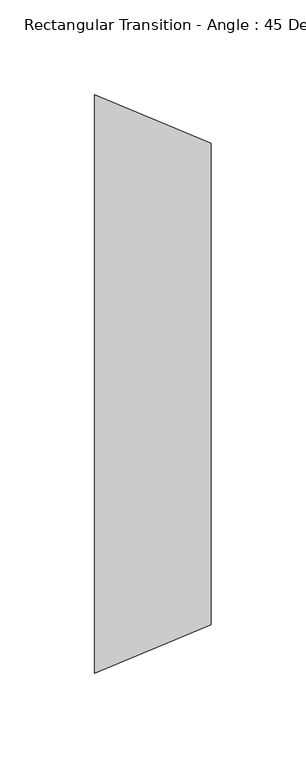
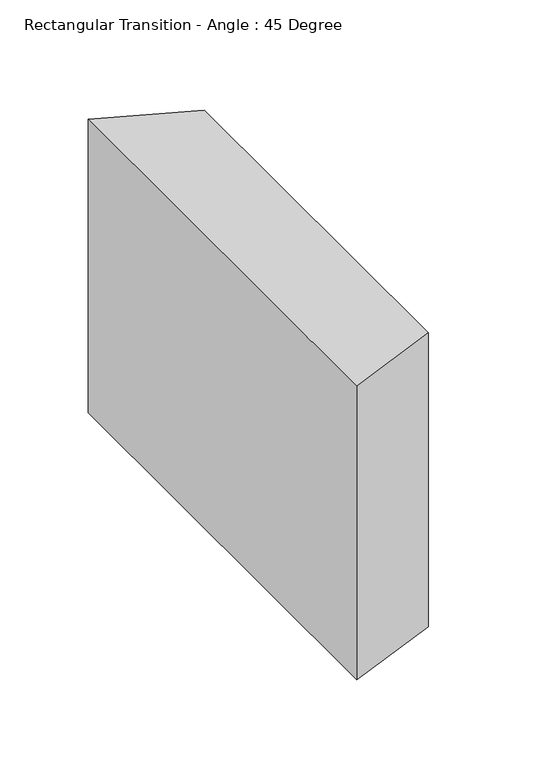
"""IFC4 building model written with IfcOpenShell, lengths in millimetres: duct fitting geometry, Rectangular Transition - Angle : 45 Degree."""

from ifc_helpers import new_model, si_unit, frame, origin, place, context, project, spatial, polyline, outline, extrude, source, transform, mapped, element, save


def rectangular_transition_angle_45_degree_1d311e81(model_context):
    return source(origin(), model_context, "Body", "SweptSolid", [
        extrude(outline(polyline([(0.0, -152.4), (0.0, 152.4), (61.3210245, 127.0), (61.3210245, -127.0), (0.0, -152.4)])), frame((0.0, 0.0, -101.6), z_axis=(0.0, 0.0, 1.0), x_axis=(1.0, 0.0, 0.0)), (0.0, 0.0, 1.0), 203.2),
    ])


if __name__ == "__main__":
    model = new_model("IFC4")
    model_context = context("Model", 3, world=origin())
    ifc_project = project(units=[si_unit("LENGTHUNIT", "METRE", prefix="MILLI")], contexts=[model_context])
    site = spatial("IfcSite", under=ifc_project)
    building = spatial("IfcBuilding", under=site)
    placement = place(None, origin())
    rectangular_transition_angle_45_degree_shape = rectangular_transition_angle_45_degree_1d311e81(model_context)
    element("IfcDuctFitting", 1, ObjectType="Rectangular Transition - Angle : 45 Degree", at=placement, inside=building, context=model_context, shape_type="MappedRepresentation", body=[
        mapped(rectangular_transition_angle_45_degree_shape, transform((0.0, 0.0, 0.0), x_axis=(1.0, 0.0, 0.0), y_axis=(0.0, 1.0, 0.0), z_axis=(0.0, 0.0, 1.0))),
    ])
    save(model, "model.ifc")
